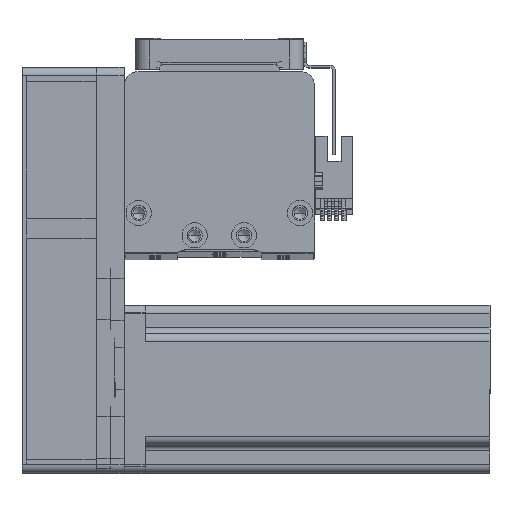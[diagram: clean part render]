
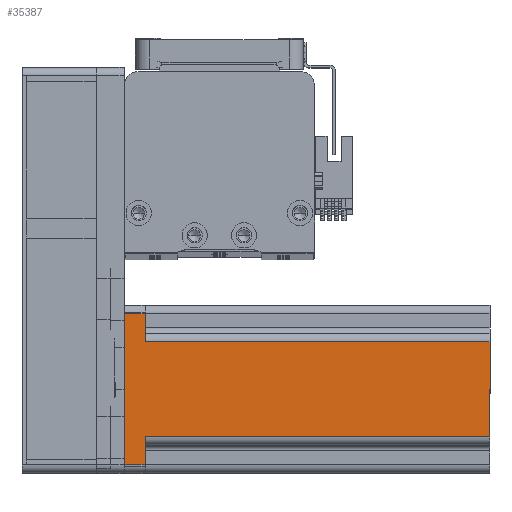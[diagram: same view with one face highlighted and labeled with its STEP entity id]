
A CAD part, top view. The second image highlights one B-rep face of the part: STEP entity #35387.
In plain terms, the highlighted planar face has unit normal (0, 0, 1) as drawn and (0, -1, 0) by its records, which use the part's own axes.
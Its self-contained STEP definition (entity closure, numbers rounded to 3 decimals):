
#450 = VERTEX_POINT ( 'NONE', #574 ) ;
#574 = CARTESIAN_POINT ( 'NONE',  ( 17., -30., 7.5 ) ) ;
#660 = LINE ( 'NONE', #1211, #41544 ) ;
#1211 = CARTESIAN_POINT ( 'NONE',  ( -27., -30., 130.7 ) ) ;
#1545 = ORIENTED_EDGE ( 'NONE', *, *, #9255, .T. ) ;
#1612 = LINE ( 'NONE', #27072, #14627 ) ;
#1966 = LINE ( 'NONE', #22168, #22995 ) ;
#3963 = AXIS2_PLACEMENT_3D ( 'NONE', #44439, #20692, #48471 ) ;
#4262 = ORIENTED_EDGE ( 'NONE', *, *, #32758, .F. ) ;
#4961 = CARTESIAN_POINT ( 'NONE',  ( 20., -30., 7.5 ) ) ;
#5930 = ORIENTED_EDGE ( 'NONE', *, *, #40295, .F. ) ;
#7113 = VECTOR ( 'NONE', #44995, 1000. ) ;
#7414 = DIRECTION ( 'NONE',  ( 0., 0., 1. ) ) ;
#8142 = CARTESIAN_POINT ( 'NONE',  ( 17., -30., 130.7 ) ) ;
#9255 = EDGE_CURVE ( 'NONE', #41658, #39050, #660, .T. ) ;
#10231 = CARTESIAN_POINT ( 'NONE',  ( -17., -30., 7.5 ) ) ;
#12033 = VERTEX_POINT ( 'NONE', #18271 ) ;
#12349 = ORIENTED_EDGE ( 'NONE', *, *, #32535, .T. ) ;
#14483 = VECTOR ( 'NONE', #38410, 1000. ) ;
#14627 = VECTOR ( 'NONE', #7414, 1000. ) ;
#14749 = VERTEX_POINT ( 'NONE', #10231 ) ;
#14908 = VERTEX_POINT ( 'NONE', #8142 ) ;
#15181 = ORIENTED_EDGE ( 'NONE', *, *, #20005, .T. ) ;
#15763 = EDGE_LOOP ( 'NONE', ( #4262, #15181, #5930, #1545, #44151, #20696, #21782, #12349 ) ) ;
#16827 = CARTESIAN_POINT ( 'NONE',  ( -17., -30., 130.7 ) ) ;
#18271 = CARTESIAN_POINT ( 'NONE',  ( -17., -30., 130.7 ) ) ;
#20005 = EDGE_CURVE ( 'NONE', #12033, #14749, #35244, .T. ) ;
#20692 = DIRECTION ( 'NONE',  ( 0., 1., 0. ) ) ;
#20696 = ORIENTED_EDGE ( 'NONE', *, *, #21575, .T. ) ;
#21575 = EDGE_CURVE ( 'NONE', #25745, #34031, #34987, .T. ) ;
#21782 = ORIENTED_EDGE ( 'NONE', *, *, #44576, .T. ) ;
#22168 = CARTESIAN_POINT ( 'NONE',  ( -20., -30., 7.5 ) ) ;
#22995 = VECTOR ( 'NONE', #29939, 1000. ) ;
#23224 = VECTOR ( 'NONE', #48287, 1000. ) ;
#24846 = CARTESIAN_POINT ( 'NONE',  ( -27., -30., 0. ) ) ;
#25745 = VERTEX_POINT ( 'NONE', #29297 ) ;
#26626 = VECTOR ( 'NONE', #32960, 1000. ) ;
#27072 = CARTESIAN_POINT ( 'NONE',  ( 17., -30., 130.7 ) ) ;
#29297 = CARTESIAN_POINT ( 'NONE',  ( 27., -30., 0. ) ) ;
#29939 = DIRECTION ( 'NONE',  ( 1., 0., 0. ) ) ;
#30820 = CARTESIAN_POINT ( 'NONE',  ( 27., -30., 7.5 ) ) ;
#32535 = EDGE_CURVE ( 'NONE', #450, #14908, #1612, .T. ) ;
#32758 = EDGE_CURVE ( 'NONE', #12033, #14908, #49345, .T. ) ;
#32960 = DIRECTION ( 'NONE',  ( -1., 0., 0. ) ) ;
#34031 = VERTEX_POINT ( 'NONE', #30820 ) ;
#34032 = VECTOR ( 'NONE', #44409, 1000. ) ;
#34987 = LINE ( 'NONE', #40222, #23224 ) ;
#35244 = LINE ( 'NONE', #16827, #34032 ) ;
#35387 = ADVANCED_FACE ( 'NONE', ( #38835 ), #48310, .F. ) ;
#36674 = EDGE_CURVE ( 'NONE', #39050, #25745, #46117, .T. ) ;
#37207 = LINE ( 'NONE', #4961, #26626 ) ;
#38410 = DIRECTION ( 'NONE',  ( 1., 0., 0. ) ) ;
#38835 = FACE_OUTER_BOUND ( 'NONE', #15763, .T. ) ;
#39050 = VERTEX_POINT ( 'NONE', #24846 ) ;
#40222 = CARTESIAN_POINT ( 'NONE',  ( 27., -30., 130.7 ) ) ;
#40295 = EDGE_CURVE ( 'NONE', #41658, #14749, #1966, .T. ) ;
#40974 = CARTESIAN_POINT ( 'NONE',  ( 30., -30., 130.7 ) ) ;
#41544 = VECTOR ( 'NONE', #44687, 1000. ) ;
#41658 = VERTEX_POINT ( 'NONE', #45473 ) ;
#44151 = ORIENTED_EDGE ( 'NONE', *, *, #36674, .T. ) ;
#44409 = DIRECTION ( 'NONE',  ( 0., 0., -1. ) ) ;
#44439 = CARTESIAN_POINT ( 'NONE',  ( 30., -30., 130.7 ) ) ;
#44576 = EDGE_CURVE ( 'NONE', #34031, #450, #37207, .T. ) ;
#44687 = DIRECTION ( 'NONE',  ( 0., 0., -1. ) ) ;
#44995 = DIRECTION ( 'NONE',  ( 1., 0., 0. ) ) ;
#45473 = CARTESIAN_POINT ( 'NONE',  ( -27., -30., 7.5 ) ) ;
#46117 = LINE ( 'NONE', #46634, #14483 ) ;
#46634 = CARTESIAN_POINT ( 'NONE',  ( 30., -30., 0. ) ) ;
#48287 = DIRECTION ( 'NONE',  ( 0., 0., 1. ) ) ;
#48310 = PLANE ( 'NONE',  #3963 ) ;
#48471 = DIRECTION ( 'NONE',  ( -1., 0., 0. ) ) ;
#49345 = LINE ( 'NONE', #40974, #7113 ) ;
